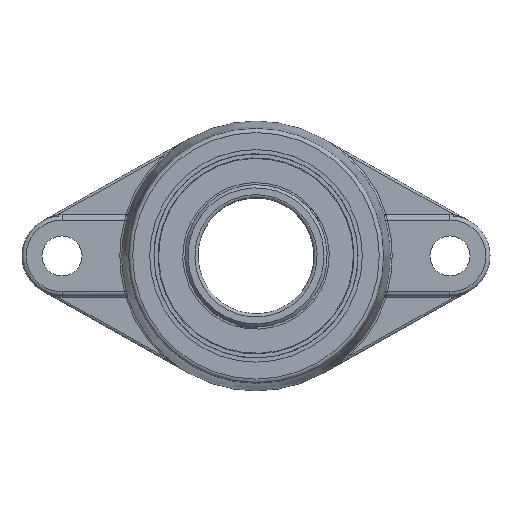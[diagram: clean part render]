
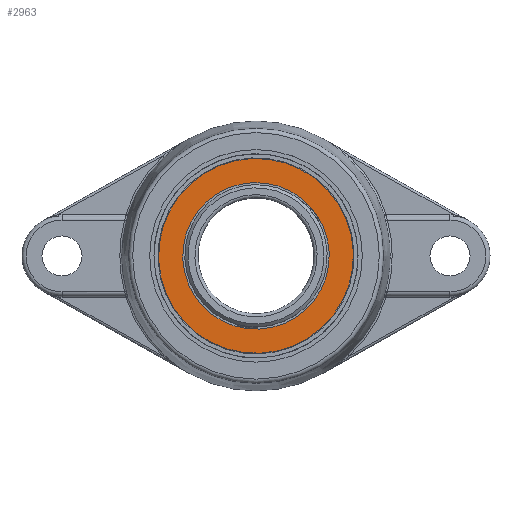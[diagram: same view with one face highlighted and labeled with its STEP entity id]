
A CAD part, top view. The second image highlights one B-rep face of the part: STEP entity #2963.
In plain terms, the highlighted planar face has unit normal (0, 0, 1) as drawn and (1, 0, 0) by its records, which use the part's own axes.
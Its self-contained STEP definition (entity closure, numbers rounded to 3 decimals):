
#149=FACE_BOUND('',#812,.T.);
#203=PLANE('',#3550);
#625=FACE_OUTER_BOUND('',#811,.T.);
#811=EDGE_LOOP('',(#2770));
#812=EDGE_LOOP('',(#2771));
#1161=CIRCLE('',#3548,46.201);
#1163=CIRCLE('',#3551,34.749);
#1455=VERTEX_POINT('',#7363);
#1457=VERTEX_POINT('',#7369);
#1893=EDGE_CURVE('',#1455,#1455,#1161,.T.);
#1896=EDGE_CURVE('',#1457,#1457,#1163,.T.);
#2770=ORIENTED_EDGE('',*,*,#1893,.T.);
#2771=ORIENTED_EDGE('',*,*,#1896,.F.);
#2963=ADVANCED_FACE('',(#625,#149),#203,.T.);
#3548=AXIS2_PLACEMENT_3D('',#7364,#4467,#4468);
#3550=AXIS2_PLACEMENT_3D('',#7368,#4472,#4473);
#3551=AXIS2_PLACEMENT_3D('',#7370,#4474,#4475);
#4467=DIRECTION('center_axis',(1.,0.,0.));
#4468=DIRECTION('ref_axis',(0.,0.,-1.));
#4472=DIRECTION('center_axis',(1.,0.,0.));
#4473=DIRECTION('ref_axis',(0.,0.,-1.));
#4474=DIRECTION('center_axis',(1.,0.,0.));
#4475=DIRECTION('ref_axis',(0.,0.,-1.));
#7363=CARTESIAN_POINT('',(13.5,-46.201,0.));
#7364=CARTESIAN_POINT('Origin',(13.5,0.,0.));
#7368=CARTESIAN_POINT('Origin',(13.5,34.749,0.));
#7369=CARTESIAN_POINT('',(13.5,-34.749,0.));
#7370=CARTESIAN_POINT('Origin',(13.5,0.,0.));
